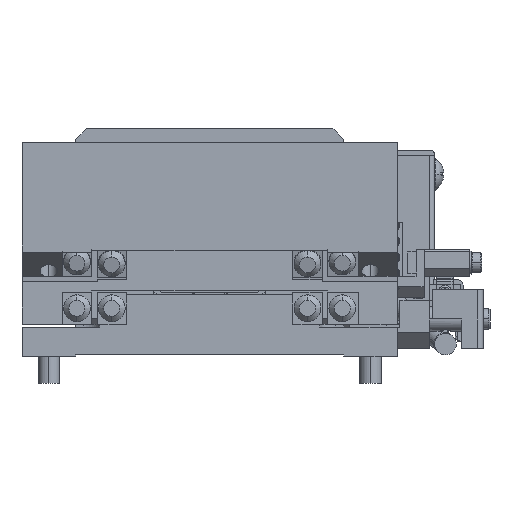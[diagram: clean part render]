
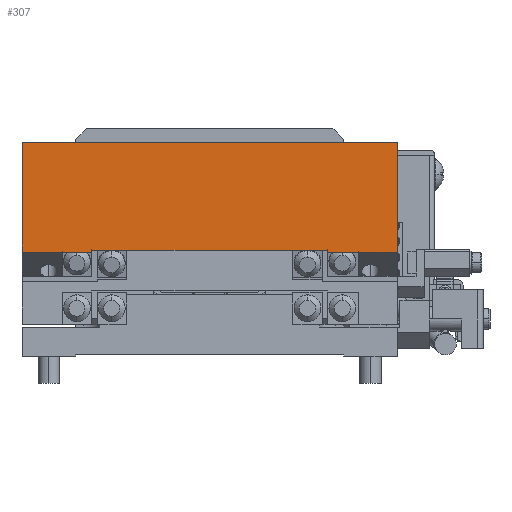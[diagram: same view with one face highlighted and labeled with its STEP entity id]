
A CAD part, left-side view. The second image highlights one B-rep face of the part: STEP entity #307.
In plain terms, the highlighted planar face has unit normal (-1, 0, 0).
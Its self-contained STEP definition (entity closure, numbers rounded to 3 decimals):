
#307=ADVANCED_FACE('',(#3669),#3668,.T.);
#3668=PLANE('',#36791);
#3669=FACE_OUTER_BOUND('',#36792,.T.);
#36788=CARTESIAN_POINT('',(-35.,-42.,17.433));
#36789=DIRECTION('',(-1.,0.,0.));
#36790=DIRECTION('',(0.,0.,1.));
#36791=AXIS2_PLACEMENT_3D('',#36788,#36789,#36790);
#36792=EDGE_LOOP('',(#58188,#58189,#58190,#58191,#58192,#58193,#58194,#58195,#58196,#58197));
#58188=ORIENTED_EDGE('',*,*,#73841,.F.);
#58189=ORIENTED_EDGE('',*,*,#73812,.T.);
#58190=ORIENTED_EDGE('',*,*,#73842,.F.);
#58191=ORIENTED_EDGE('',*,*,#73843,.T.);
#58192=ORIENTED_EDGE('',*,*,#73844,.T.);
#58193=ORIENTED_EDGE('',*,*,#73839,.F.);
#58194=ORIENTED_EDGE('',*,*,#73818,.F.);
#58195=ORIENTED_EDGE('',*,*,#73845,.T.);
#58196=ORIENTED_EDGE('',*,*,#73846,.T.);
#58197=ORIENTED_EDGE('',*,*,#73847,.T.);
#73812=EDGE_CURVE('',#81790,#81717,#81791,.T.);
#73818=EDGE_CURVE('',#81777,#81831,#81832,.T.);
#73839=EDGE_CURVE('',#81831,#81972,#81973,.T.);
#73841=EDGE_CURVE('',#81790,#81985,#81986,.T.);
#73842=EDGE_CURVE('',#81992,#81717,#81993,.T.);
#73843=EDGE_CURVE('',#81992,#81999,#82000,.T.);
#73844=EDGE_CURVE('',#81999,#81972,#82006,.T.);
#73845=EDGE_CURVE('',#81777,#82012,#82013,.T.);
#73846=EDGE_CURVE('',#82012,#82019,#82020,.T.);
#73847=EDGE_CURVE('',#82019,#81985,#82026,.T.);
#81717=VERTEX_POINT('',#133494);
#81777=VERTEX_POINT('',#133522);
#81790=VERTEX_POINT('',#133529);
#81791=LINE('',#133530,#133531);
#81831=VERTEX_POINT('',#133556);
#81832=LINE('',#133557,#133558);
#81972=VERTEX_POINT('',#133637);
#81973=LINE('',#133638,#133639);
#81985=VERTEX_POINT('',#133644);
#81986=LINE('',#133645,#133646);
#81992=VERTEX_POINT('',#133648);
#81993=LINE('',#133649,#133650);
#81999=VERTEX_POINT('',#133652);
#82000=LINE('',#133653,#133654);
#82006=LINE('',#133656,#133657);
#82012=VERTEX_POINT('',#133659);
#82013=LINE('',#133660,#133661);
#82019=VERTEX_POINT('',#133663);
#82020=LINE('',#133664,#133665);
#82026=LINE('',#133667,#133668);
#133494=CARTESIAN_POINT('',(-35.,-27.8,19.485));
#133522=CARTESIAN_POINT('',(-35.,27.5,19.485));
#133529=CARTESIAN_POINT('',(-35.,-22.,19.485));
#133530=CARTESIAN_POINT('',(-35.,-22.,19.485));
#133531=VECTOR('',#133532,5.8);
#133532=DIRECTION('',(0.,-1.,0.));
#133556=CARTESIAN_POINT('',(-35.,35.,19.485));
#133557=CARTESIAN_POINT('',(-35.,27.5,19.485));
#133558=VECTOR('',#133559,7.5);
#133559=DIRECTION('',(0.,1.,0.));
#133637=CARTESIAN_POINT('',(-35.,35.,40.));
#133638=CARTESIAN_POINT('',(-35.,35.,19.485));
#133639=VECTOR('',#133640,20.515);
#133640=DIRECTION('',(0.,0.,1.));
#133644=CARTESIAN_POINT('',(-35.,-22.,19.794));
#133645=CARTESIAN_POINT('',(-35.,-22.,19.485));
#133646=VECTOR('',#133647,0.309);
#133647=DIRECTION('',(0.,0.,1.));
#133648=CARTESIAN_POINT('',(-35.,-35.,19.485));
#133649=CARTESIAN_POINT('',(-35.,-35.,19.485));
#133650=VECTOR('',#133651,7.2);
#133651=DIRECTION('',(0.,1.,0.));
#133652=CARTESIAN_POINT('',(-35.,-35.,40.));
#133653=CARTESIAN_POINT('',(-35.,-35.,19.485));
#133654=VECTOR('',#133655,20.515);
#133655=DIRECTION('',(0.,0.,1.));
#133656=CARTESIAN_POINT('',(-35.,-35.,40.));
#133657=VECTOR('',#133658,70.);
#133658=DIRECTION('',(0.,1.,0.));
#133659=CARTESIAN_POINT('',(-35.,22.,19.485));
#133660=CARTESIAN_POINT('',(-35.,27.5,19.485));
#133661=VECTOR('',#133662,5.5);
#133662=DIRECTION('',(0.,-1.,0.));
#133663=CARTESIAN_POINT('',(-35.,22.,19.794));
#133664=CARTESIAN_POINT('',(-35.,22.,19.485));
#133665=VECTOR('',#133666,0.309);
#133666=DIRECTION('',(0.,0.,1.));
#133667=CARTESIAN_POINT('',(-35.,22.,19.794));
#133668=VECTOR('',#133669,44.);
#133669=DIRECTION('',(0.,-1.,0.));
